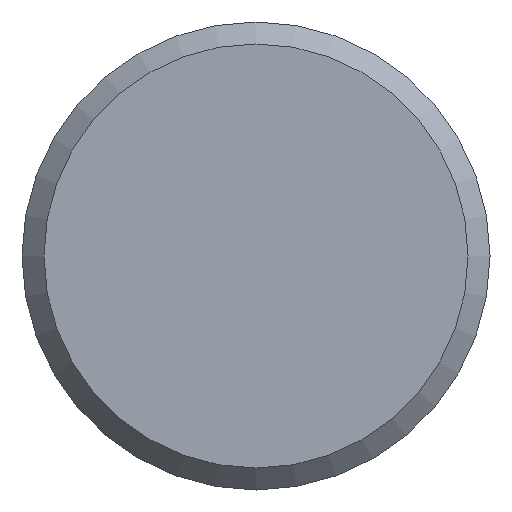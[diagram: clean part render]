
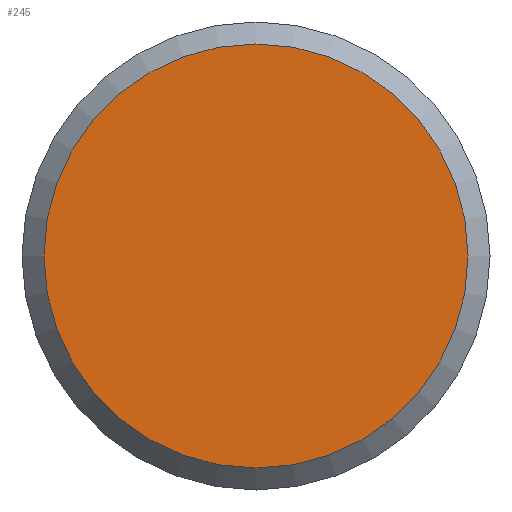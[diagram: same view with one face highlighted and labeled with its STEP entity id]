
A CAD part, front view. The second image highlights one B-rep face of the part: STEP entity #245.
In plain terms, the highlighted planar face has unit normal (0, -1, 0).
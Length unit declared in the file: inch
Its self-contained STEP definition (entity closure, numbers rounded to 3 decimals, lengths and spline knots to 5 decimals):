
#17=CIRCLE('',#271,0.295);
#35=FACE_OUTER_BOUND('',#48,.T.);
#48=EDGE_LOOP('',(#199));
#116=VERTEX_POINT('',#416);
#147=EDGE_CURVE('',#116,#116,#17,.T.);
#199=ORIENTED_EDGE('',*,*,#147,.F.);
#234=PLANE('',#277);
#245=ADVANCED_FACE('',(#35),#234,.T.);
#271=AXIS2_PLACEMENT_3D('',#417,#312,#313);
#277=AXIS2_PLACEMENT_3D('',#429,#326,#327);
#312=DIRECTION('center_axis',(0.,1.,0.));
#313=DIRECTION('ref_axis',(0.,0.,1.));
#326=DIRECTION('center_axis',(0.,-1.,0.));
#327=DIRECTION('ref_axis',(0.,0.,-1.));
#416=CARTESIAN_POINT('',(0.,0.,-0.295));
#417=CARTESIAN_POINT('Origin',(0.,0.,0.));
#429=CARTESIAN_POINT('Origin',(0.,0.,0.));
